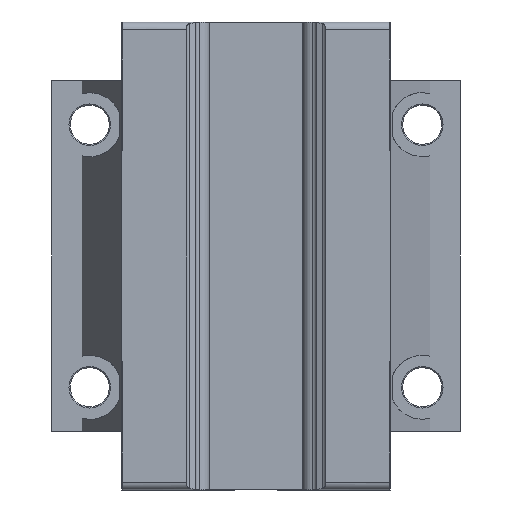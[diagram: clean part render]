
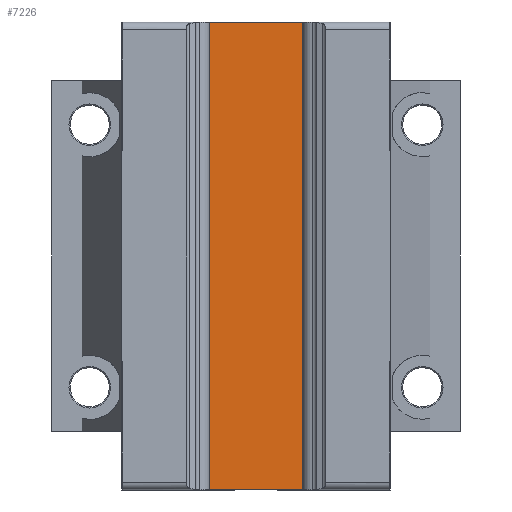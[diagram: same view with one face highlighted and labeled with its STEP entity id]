
A CAD part, front view. The second image highlights one B-rep face of the part: STEP entity #7226.
In plain terms, the highlighted planar face has unit normal (0, -1, 0).
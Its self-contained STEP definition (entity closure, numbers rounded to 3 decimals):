
#1083 = DIRECTION ( 'NONE',  ( 0., 0., 1. ) ) ;
#1084 = DIRECTION ( 'NONE',  ( 0., 1., 0. ) ) ;
#1085 = CARTESIAN_POINT ( 'NONE',  ( 8.834, 9.2, -10.1 ) ) ;
#1086 = AXIS2_PLACEMENT_3D ( 'NONE', #1085, #1084, #1083 ) ;
#1087 = PLANE ( 'NONE',  #1086 ) ;
#1088 = FACE_OUTER_BOUND ( 'NONE', #7227, .T. ) ;
#1176 = DIRECTION ( 'NONE',  ( 0., 0., 1. ) ) ;
#1177 = VECTOR ( 'NONE', #1176, 1000. ) ;
#1178 = CARTESIAN_POINT ( 'NONE',  ( 8.834, 9.2, -10.1 ) ) ;
#1179 = LINE ( 'NONE', #1178, #1177 ) ;
#1180 = DIRECTION ( 'NONE',  ( 0., 0., 1. ) ) ;
#1181 = VECTOR ( 'NONE', #1180, 1000. ) ;
#1182 = CARTESIAN_POINT ( 'NONE',  ( -8.834, 9.2, -10.1 ) ) ;
#1183 = LINE ( 'NONE', #1182, #1181 ) ;
#4881 = EDGE_CURVE ( 'NONE', #4969, #5024, #9516, .T. ) ;
#4969 = VERTEX_POINT ( 'NONE', #9623 ) ;
#5024 = VERTEX_POINT ( 'NONE', #9914 ) ;
#5393 = VERTEX_POINT ( 'NONE', #10891 ) ;
#5420 = EDGE_CURVE ( 'NONE', #5393, #5421, #10876, .T. ) ;
#5421 = VERTEX_POINT ( 'NONE', #10868 ) ;
#7226 = ADVANCED_FACE ( 'NONE', ( #1088 ), #1087, .F. ) ;
#7227 = EDGE_LOOP ( 'NONE', ( #7292, #7280, #7281, #7282 ) ) ;
#7280 = ORIENTED_EDGE ( 'NONE', *, *, #5420, .F. ) ;
#7281 = ORIENTED_EDGE ( 'NONE', *, *, #7291, .F. ) ;
#7282 = ORIENTED_EDGE ( 'NONE', *, *, #4881, .F. ) ;
#7291 = EDGE_CURVE ( 'NONE', #5024, #5393, #1183, .T. ) ;
#7292 = ORIENTED_EDGE ( 'NONE', *, *, #7293, .T. ) ;
#7293 = EDGE_CURVE ( 'NONE', #4969, #5421, #1179, .T. ) ;
#9516 = LINE ( 'NONE', #9524, #9523 ) ;
#9522 = DIRECTION ( 'NONE',  ( -1., 0., 0. ) ) ;
#9523 = VECTOR ( 'NONE', #9522, 1000. ) ;
#9524 = CARTESIAN_POINT ( 'NONE',  ( -9.2, 9.2, -10.05 ) ) ;
#9623 = CARTESIAN_POINT ( 'NONE',  ( 8.834, 9.2, -10.05 ) ) ;
#9914 = CARTESIAN_POINT ( 'NONE',  ( -8.834, 9.2, -10.05 ) ) ;
#10868 = CARTESIAN_POINT ( 'NONE',  ( 8.834, 9.2, 70.05 ) ) ;
#10873 = DIRECTION ( 'NONE',  ( 1., 0., 0. ) ) ;
#10874 = VECTOR ( 'NONE', #10873, 1000. ) ;
#10875 = CARTESIAN_POINT ( 'NONE',  ( -9.2, 9.2, 70.05 ) ) ;
#10876 = LINE ( 'NONE', #10875, #10874 ) ;
#10891 = CARTESIAN_POINT ( 'NONE',  ( -8.834, 9.2, 70.05 ) ) ;
